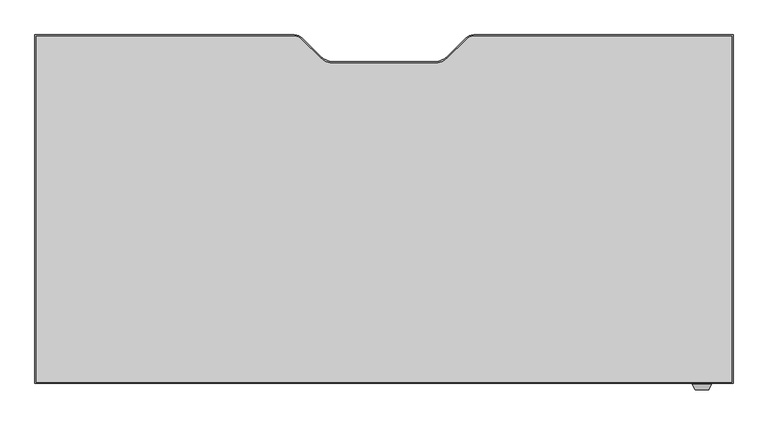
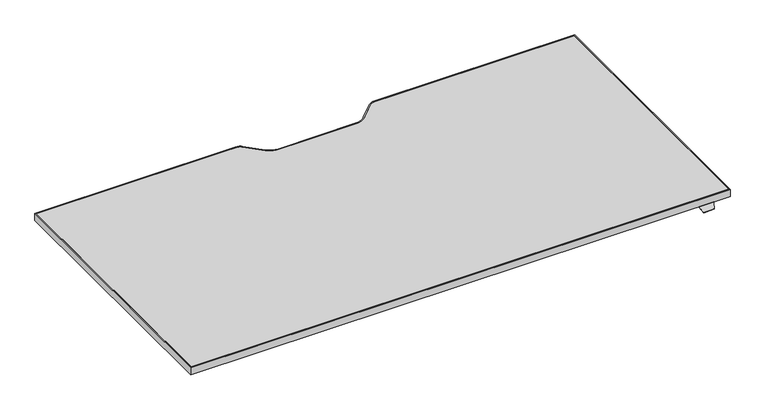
"""IFC4 building model written with IfcOpenShell, lengths in millimetres: furniture geometry, Steelcase Turnstone - Bivi - Height Adjustable Desk - T Base : 36D x 72W."""

from ifc_helpers import new_model, si_unit, point, frame, frame_2d, origin, place, context, project, spatial, polyline, circle_curve, trimmed, segment, composite_curve, outline, extrude, faceted_brep, source, transform, mapped, element, save


def furniture_52d23382(model_context):
    return source(origin(), model_context, "Body", "SolidModel", [
        faceted_brep([(468.4177913, -554.7301693, 760.9984131), (468.4177913, -552.2074599, 760.9984131), (468.4177913, -552.2074599, 762.4), (468.4177913, -554.7490853, 762.4), (468.4177913, -556.0594921, 761.3004382), (468.4177913, -556.0594921, 759.8829789), (418.8448135, -554.7490853, 762.4), (418.8448135, -552.2074599, 762.4), (418.8448135, -552.2074599, 760.9984131), (418.8448135, -554.7301693, 760.9984131), (418.8448135, -556.0594921, 759.8829789), (418.8448135, -556.0594921, 761.3004382), (461.4358363, -571.0323429, 748.7367246), (425.8267685, -571.0323429, 748.7367246), (425.4673686, -570.2616074, 747.9659891), (461.7952362, -570.2616074, 747.9659891)], [[[0, 1, 2, 3, 4, 5]], [[6, 7, 8, 9, 10, 11]], [[12, 13, 14, 15]], [[9, 0, 5, 15, 14, 10]], [[1, 0, 9, 8]], [[2, 1, 8, 7]], [[3, 2, 7, 6]], [[3, 6, 11, 13, 12, 4]], [[5, 4, 12, 15]], [[11, 10, 14, 13]]]),
        extrude(outline(composite_curve([segment(polyline([(-1303.6285908, 359.6509147), (-623.9070191, 359.6509147)]), True, "CONTINUOUS"), segment(trimmed(circle_curve(frame_2d((-623.9070191, 330.9489147)), 28.702), [point((-623.9070191, 359.6509147))], [point((-603.6116402, 351.2442935))], False, "CARTESIAN"), True, "CONTINUOUS"), segment(polyline([(-603.6116402, 351.2442935), (-556.0972358, 303.7298891)]), True, "CONTINUOUS"), segment(trimmed(circle_curve(frame_2d((-520.1762113, 339.6509136)), 50.8), [point((-556.0972358, 303.7298891))], [point((-520.1762113, 288.8509136))], True, "CARTESIAN"), True, "CONTINUOUS"), segment(polyline([(-520.1762113, 288.8509136), (-258.2809703, 288.8509136)]), True, "CONTINUOUS"), segment(trimmed(circle_curve(frame_2d((-258.2809703, 339.6509136)), 50.8), [point((-258.2809703, 288.8509136))], [point((-222.3599458, 303.7298891))], True, "CARTESIAN"), True, "CONTINUOUS"), segment(polyline([(-222.3599458, 303.7298891), (-174.8455414, 351.2442935)]), True, "CONTINUOUS"), segment(trimmed(circle_curve(frame_2d((-154.5501625, 330.9489147)), 28.702), [point((-174.8455414, 351.2442935))], [point((-154.5501625, 359.6509147))], False, "CARTESIAN"), True, "CONTINUOUS"), segment(polyline([(-154.5501625, 359.6509147), (525.1714092, 359.6509147), (525.1714092, -554.7490853), (-1303.6285908, -554.7490853), (-1303.6285908, 359.6509147)]), True, "CONTINUOUS")], self_intersect=False), holes=[composite_curve([segment(polyline([(-1300.2487543, 356.3489147), (-1300.2487543, -551.4470853), (521.8694092, -551.4470853), (521.8694092, 356.3489147), (-154.5501625, 356.3489147)]), True, "CONTINUOUS"), segment(trimmed(circle_curve(frame_2d((-154.5501625, 330.9489147)), 25.4), [point((-154.5501625, 356.3489147))], [point((-172.5106748, 348.9094269))], True, "CARTESIAN"), True, "CONTINUOUS"), segment(polyline([(-172.5106748, 348.9094269), (-220.527602, 300.8924998)]), True, "CONTINUOUS"), segment(trimmed(circle_curve(frame_2d((-256.4486265, 336.8135242)), 50.8), [point((-220.527602, 300.8924998))], [point((-256.4486265, 286.0135242))], False, "CARTESIAN"), True, "CONTINUOUS"), segment(polyline([(-256.4486265, 286.0135242), (-389.2285908, 286.0135242), (-522.0085552, 286.0135242)]), True, "CONTINUOUS"), segment(trimmed(circle_curve(frame_2d((-522.0085552, 336.8135242)), 50.8), [point((-522.0085552, 286.0135242))], [point((-557.9295796, 300.8924998))], False, "CARTESIAN"), True, "CONTINUOUS"), segment(polyline([(-557.9295796, 300.8924998), (-605.9465068, 348.9094269)]), True, "CONTINUOUS"), segment(trimmed(circle_curve(frame_2d((-623.9070191, 330.9489147)), 25.4), [point((-605.9465068, 348.9094269))], [point((-623.9070191, 356.3489147))], True, "CARTESIAN"), True, "CONTINUOUS"), segment(polyline([(-623.9070191, 356.3489147), (-1300.2487543, 356.3489147)]), True, "CONTINUOUS")], self_intersect=False)]), frame((0.0, 0.0, 762.4), z_axis=(0.0, 0.0, 1.0), x_axis=(1.0, 0.0, 0.0)), (0.0, 0.0, 1.0), 25.0),
        extrude(outline(composite_curve([segment(polyline([(-1300.2487543, 356.3489147), (-623.9070191, 356.3489147)]), True, "CONTINUOUS"), segment(trimmed(circle_curve(frame_2d((-623.9070191, 330.9489147)), 25.4), [point((-623.9070191, 356.3489147))], [point((-605.9465068, 348.9094269))], False, "CARTESIAN"), True, "CONTINUOUS"), segment(polyline([(-605.9465068, 348.9094269), (-557.9295796, 300.8924998)]), True, "CONTINUOUS"), segment(trimmed(circle_curve(frame_2d((-522.0085552, 336.8135242)), 50.8), [point((-557.9295796, 300.8924998))], [point((-522.0085552, 286.0135242))], True, "CARTESIAN"), True, "CONTINUOUS"), segment(polyline([(-522.0085552, 286.0135242), (-389.2285908, 286.0135242), (-256.4486265, 286.0135242)]), True, "CONTINUOUS"), segment(trimmed(circle_curve(frame_2d((-256.4486265, 336.8135242)), 50.8), [point((-256.4486265, 286.0135242))], [point((-220.527602, 300.8924998))], True, "CARTESIAN"), True, "CONTINUOUS"), segment(polyline([(-220.527602, 300.8924998), (-172.5106748, 348.9094269)]), True, "CONTINUOUS"), segment(trimmed(circle_curve(frame_2d((-154.5501625, 330.9489147)), 25.4), [point((-172.5106748, 348.9094269))], [point((-154.5501625, 356.3489147))], False, "CARTESIAN"), True, "CONTINUOUS"), segment(polyline([(-154.5501625, 356.3489147), (521.8694092, 356.3489147), (521.8694092, -551.4470853), (-1300.2487543, -551.4470853), (-1300.2487543, 356.3489147)]), True, "CONTINUOUS")], self_intersect=False)), frame((0.0, 0.0, 762.4), z_axis=(0.0, 0.0, 1.0), x_axis=(1.0, 0.0, 0.0)), (0.0, 0.0, 1.0), 25.0),
    ])


if __name__ == "__main__":
    model = new_model("IFC4")
    model_context = context("Model", 3, world=origin())
    ifc_project = project(units=[si_unit("LENGTHUNIT", "METRE", prefix="MILLI")], contexts=[model_context])
    site = spatial("IfcSite", under=ifc_project)
    building = spatial("IfcBuilding", under=site)
    placement = place(None, origin())
    furniture_shape = furniture_52d23382(model_context)
    element("IfcFurniture", 1, ObjectType="Steelcase Turnstone - Bivi - Height Adjustable Desk - T Base : 36D x 72W", at=placement, inside=building, context=model_context, shape_type="MappedRepresentation", body=[
        mapped(furniture_shape, transform((0.0, 0.0, 0.0), x_axis=(1.0, 0.0, 0.0), y_axis=(0.0, 1.0, 0.0), z_axis=(0.0, 0.0, 1.0))),
    ])
    save(model, "model.ifc")
